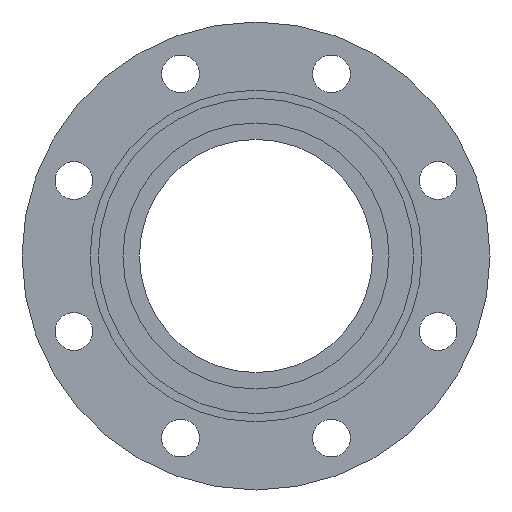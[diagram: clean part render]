
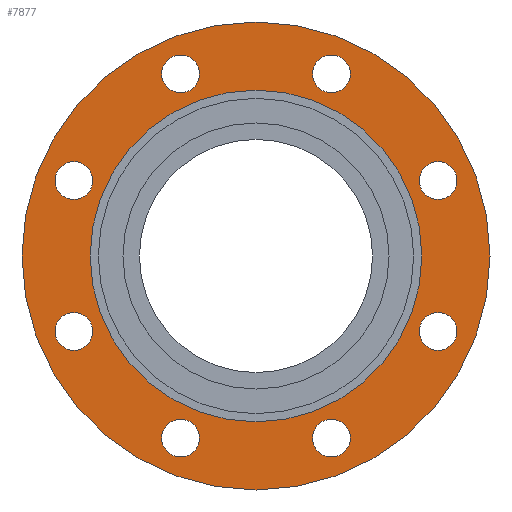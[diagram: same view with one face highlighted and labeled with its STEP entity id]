
A CAD part, left-side view. The second image highlights one B-rep face of the part: STEP entity #7877.
In plain terms, the highlighted planar face has unit normal (-1, 0, 0).
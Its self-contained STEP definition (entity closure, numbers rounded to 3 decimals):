
#7877=ADVANCED_FACE('',(#14136,#14138,#14140,#14142,#14144,#14146,#14148,#14150,
#14152,#14154),#14156,.T.);
#14136=FACE_BOUND('',#14137,.T.);
#14137=EDGE_LOOP('',(#19318,#19319));
#14138=FACE_BOUND('',#14139,.T.);
#14139=EDGE_LOOP('',(#19320));
#14140=FACE_BOUND('',#14141,.T.);
#14141=EDGE_LOOP('',(#19321));
#14142=FACE_BOUND('',#14143,.T.);
#14143=EDGE_LOOP('',(#19322));
#14144=FACE_BOUND('',#14145,.T.);
#14145=EDGE_LOOP('',(#19323));
#14146=FACE_BOUND('',#14147,.T.);
#14147=EDGE_LOOP('',(#19324));
#14148=FACE_BOUND('',#14149,.T.);
#14149=EDGE_LOOP('',(#19325));
#14150=FACE_BOUND('',#14151,.T.);
#14151=EDGE_LOOP('',(#19326));
#14152=FACE_BOUND('',#14153,.T.);
#14153=EDGE_LOOP('',(#19327,#19328));
#14154=FACE_BOUND('',#14155,.T.);
#14155=EDGE_LOOP('',(#19329));
#14156=PLANE('',#14157);
#14157=AXIS2_PLACEMENT_3D('',#14158,#14159,#14160);
#14158=CARTESIAN_POINT('',(18436.168,6729.468,0.));
#14159=DIRECTION('',(-1.,0.,0.));
#14160=DIRECTION('',(0.,0.,1.));
#19318=ORIENTED_EDGE('',*,*,#21919,.F.);
#19319=ORIENTED_EDGE('',*,*,#21920,.F.);
#19320=ORIENTED_EDGE('',*,*,#21856,.T.);
#19321=ORIENTED_EDGE('',*,*,#21858,.T.);
#19322=ORIENTED_EDGE('',*,*,#21860,.T.);
#19323=ORIENTED_EDGE('',*,*,#21878,.T.);
#19324=ORIENTED_EDGE('',*,*,#21880,.T.);
#19325=ORIENTED_EDGE('',*,*,#21882,.T.);
#19326=ORIENTED_EDGE('',*,*,#21884,.T.);
#19327=ORIENTED_EDGE('',*,*,#21917,.T.);
#19328=ORIENTED_EDGE('',*,*,#21918,.T.);
#19329=ORIENTED_EDGE('',*,*,#21854,.T.);
#21854=EDGE_CURVE('',#26016,#26016,#26017,.T.);
#21856=EDGE_CURVE('',#26020,#26020,#26021,.T.);
#21858=EDGE_CURVE('',#26024,#26024,#26025,.T.);
#21860=EDGE_CURVE('',#26028,#26028,#26029,.T.);
#21878=EDGE_CURVE('',#26064,#26064,#26065,.T.);
#21880=EDGE_CURVE('',#26068,#26068,#26069,.T.);
#21882=EDGE_CURVE('',#26072,#26072,#26073,.T.);
#21884=EDGE_CURVE('',#26076,#26076,#26077,.T.);
#21917=EDGE_CURVE('',#26142,#26143,#26144,.T.);
#21918=EDGE_CURVE('',#26143,#26142,#26145,.T.);
#21919=EDGE_CURVE('',#26146,#26147,#26148,.T.);
#21920=EDGE_CURVE('',#26147,#26146,#26149,.T.);
#26016=VERTEX_POINT('',#35154);
#26017=CIRCLE('',#35155,11.5);
#26020=VERTEX_POINT('',#35164);
#26021=CIRCLE('',#35165,11.5);
#26024=VERTEX_POINT('',#35174);
#26025=CIRCLE('',#35175,11.5);
#26028=VERTEX_POINT('',#35184);
#26029=CIRCLE('',#35185,11.5);
#26064=VERTEX_POINT('',#35274);
#26065=CIRCLE('',#35275,11.5);
#26068=VERTEX_POINT('',#35284);
#26069=CIRCLE('',#35285,11.5);
#26072=VERTEX_POINT('',#35294);
#26073=CIRCLE('',#35295,11.5);
#26076=VERTEX_POINT('',#35304);
#26077=CIRCLE('',#35305,11.5);
#26142=VERTEX_POINT('',#35469);
#26143=VERTEX_POINT('',#35470);
#26144=CIRCLE('',#35471,101.);
#26145=CIRCLE('',#35475,101.);
#26146=VERTEX_POINT('',#35479);
#26147=VERTEX_POINT('',#35480);
#26148=CIRCLE('',#35481,142.5);
#26149=CIRCLE('',#35485,142.5);
#35154=CARTESIAN_POINT('',(18436.168,6982.833,57.422));
#35155=AXIS2_PLACEMENT_3D('',#35156,#35157,#35158);
#35156=CARTESIAN_POINT('',(18436.168,6982.833,45.922));
#35157=DIRECTION('',(1.,0.,0.));
#35158=DIRECTION('',(0.,0.,1.));
#35164=CARTESIAN_POINT('',(18436.168,6826.046,122.366));
#35165=AXIS2_PLACEMENT_3D('',#35166,#35167,#35168);
#35166=CARTESIAN_POINT('',(18436.168,6826.046,110.866));
#35167=DIRECTION('',(1.,0.,0.));
#35168=DIRECTION('',(0.,0.,1.));
#35174=CARTESIAN_POINT('',(18436.168,6761.102,-34.422));
#35175=AXIS2_PLACEMENT_3D('',#35176,#35177,#35178);
#35176=CARTESIAN_POINT('',(18436.168,6761.102,-45.922));
#35177=DIRECTION('',(1.,0.,0.));
#35178=DIRECTION('',(0.,0.,1.));
#35184=CARTESIAN_POINT('',(18436.168,6917.89,-99.366));
#35185=AXIS2_PLACEMENT_3D('',#35186,#35187,#35188);
#35186=CARTESIAN_POINT('',(18436.168,6917.89,-110.866));
#35187=DIRECTION('',(1.,0.,0.));
#35188=DIRECTION('',(0.,0.,1.));
#35274=CARTESIAN_POINT('',(18436.168,6826.046,-99.366));
#35275=AXIS2_PLACEMENT_3D('',#35276,#35277,#35278);
#35276=CARTESIAN_POINT('',(18436.168,6826.046,-110.866));
#35277=DIRECTION('',(1.,0.,0.));
#35278=DIRECTION('',(0.,0.,1.));
#35284=CARTESIAN_POINT('',(18436.168,6761.102,57.422));
#35285=AXIS2_PLACEMENT_3D('',#35286,#35287,#35288);
#35286=CARTESIAN_POINT('',(18436.168,6761.102,45.922));
#35287=DIRECTION('',(1.,0.,0.));
#35288=DIRECTION('',(0.,0.,1.));
#35294=CARTESIAN_POINT('',(18436.168,6917.89,122.366));
#35295=AXIS2_PLACEMENT_3D('',#35296,#35297,#35298);
#35296=CARTESIAN_POINT('',(18436.168,6917.89,110.866));
#35297=DIRECTION('',(1.,0.,0.));
#35298=DIRECTION('',(0.,0.,1.));
#35304=CARTESIAN_POINT('',(18436.168,6982.833,-34.422));
#35305=AXIS2_PLACEMENT_3D('',#35306,#35307,#35308);
#35306=CARTESIAN_POINT('',(18436.168,6982.833,-45.922));
#35307=DIRECTION('',(1.,0.,0.));
#35308=DIRECTION('',(0.,0.,1.));
#35469=CARTESIAN_POINT('',(18436.168,6770.968,0.));
#35470=CARTESIAN_POINT('',(18436.168,6972.968,0.));
#35471=AXIS2_PLACEMENT_3D('',#35472,#35473,#35474);
#35472=CARTESIAN_POINT('',(18436.168,6871.968,0.));
#35473=DIRECTION('',(1.,0.,0.));
#35474=DIRECTION('',(0.,-1.,0.));
#35475=AXIS2_PLACEMENT_3D('',#35476,#35477,#35478);
#35476=CARTESIAN_POINT('',(18436.168,6871.968,0.));
#35477=DIRECTION('',(1.,0.,0.));
#35478=DIRECTION('',(0.,1.,0.));
#35479=CARTESIAN_POINT('',(18436.168,7014.468,0.));
#35480=CARTESIAN_POINT('',(18436.168,6729.468,0.));
#35481=AXIS2_PLACEMENT_3D('',#35482,#35483,#35484);
#35482=CARTESIAN_POINT('',(18436.168,6871.968,0.));
#35483=DIRECTION('',(1.,0.,0.));
#35484=DIRECTION('',(0.,1.,0.));
#35485=AXIS2_PLACEMENT_3D('',#35486,#35487,#35488);
#35486=CARTESIAN_POINT('',(18436.168,6871.968,0.));
#35487=DIRECTION('',(1.,0.,0.));
#35488=DIRECTION('',(0.,-1.,0.));
